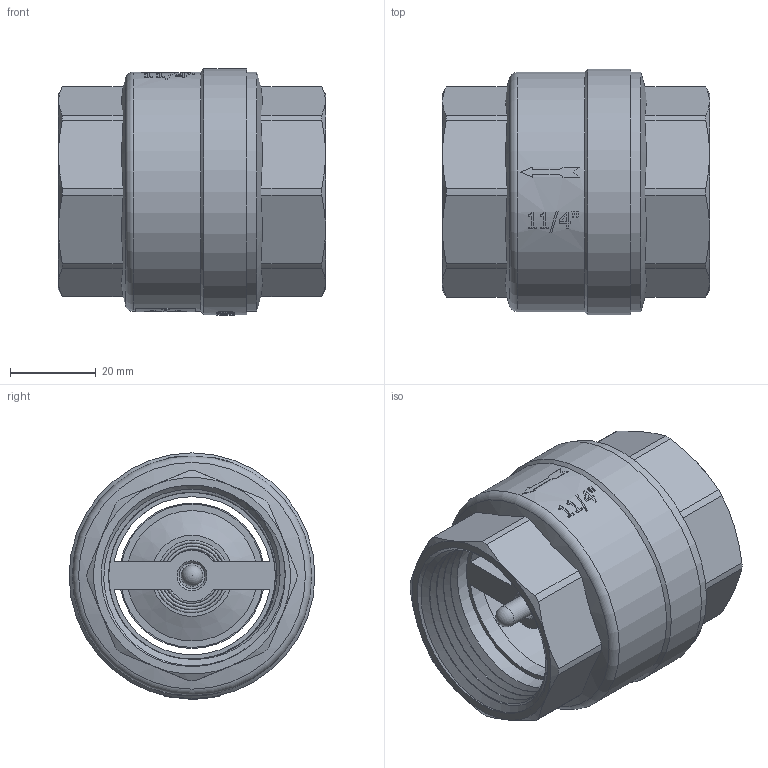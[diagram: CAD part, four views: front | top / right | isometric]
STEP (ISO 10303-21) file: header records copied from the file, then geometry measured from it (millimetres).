
FILE_DESCRIPTION(/* description */ (''),/* implementation_level */ '2;1');
FILE_NAME(/* name */ 'F:\Артём\00000\Работа удаленка\═╝╓╜\VT.161\VT.161.N.07.stp',/* time_stamp */ '2021-04-01T14:45:09+03:00',/* author */ ('almis'),/* organization */ (''),/* preprocessor_version */ 'ST-DEVELOPER v18',/* originating_system */ 'Autodesk Inventor 2020',/* authorisation */ '');
FILE_SCHEMA (('AUTOMOTIVE_DESIGN { 1 0 10303 214 3 1 1 }'));
Length unit declared in the file: millimetre
Products named in the file (1): VT.161.N.07
Bounding box: 62.5 x 57.5 x 57.6 mm (x, y, z)
Volume: 43970.7 mm3; surface area: 33356.7 mm2
Topology: 2 solids, 2 shells, 284 faces, 765 edges, 516 vertices
Faces by surface type: plane 137, cylinder 81, cone 31, bspline 31, torus 3, sphere 1
Full cylindrical faces by diameter (mm): 5 x3, 6 x2, 6.4 x1, 14.2 x1, 17 x1, 30.5 x1, 33.5 x1, 34 x1, 37 x1, 39 x8, 43.6 x10, 48 x1, 51.5 x1, 56 x2, 57.5 x1
Entity records: 14117 total; most frequent: CARTESIAN_POINT 7081, ORIENTED_EDGE 1528, DIRECTION 1390, EDGE_CURVE 764, AXIS2_PLACEMENT_3D 536, VERTEX_POINT 516, EDGE_LOOP 326, LINE 318
